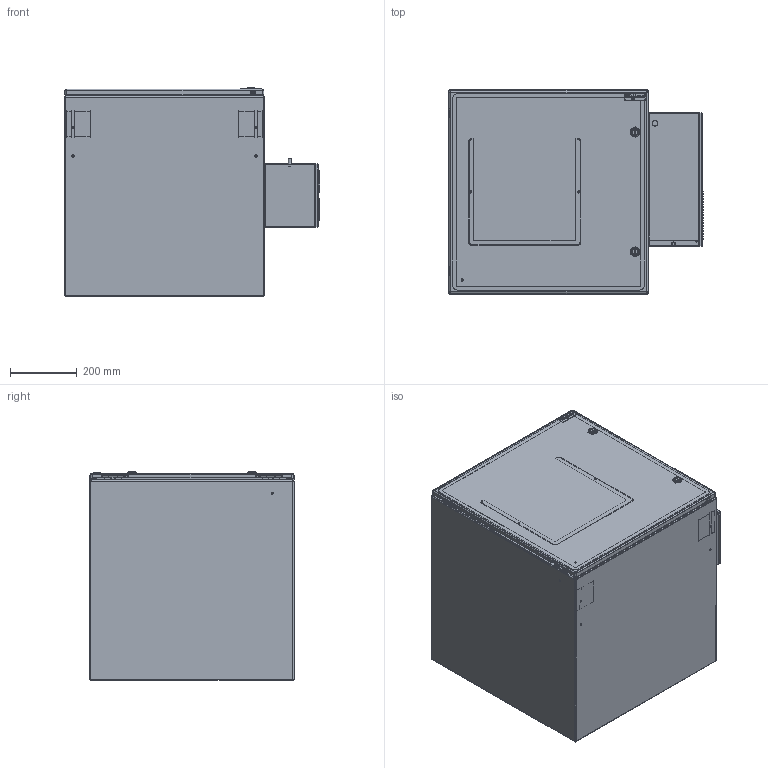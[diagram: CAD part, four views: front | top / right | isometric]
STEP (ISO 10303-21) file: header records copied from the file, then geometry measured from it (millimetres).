
FILE_DESCRIPTION (( 'STEP AP203' ), '1' );
FILE_NAME ('ptrs242424xa.STEP', '2011-12-06T15:19:55', ( 'Hoffman User' ), ( 'Hoffman Enclosures' ), 'SwSTEP 2.0', 'SolidWorks 2010', '' );
FILE_SCHEMA (( 'CONFIG_CONTROL_DESIGN' ));
Products named in the file (41): ptrs242424xa; 89080366; 89074391; 89074356; 87846299_Config-Drawing; 89074527; 89074354; 89080365; 89080364; 87951490; 87951464; 89056623; 87543026; 89074131_WITH PRINT POCKET AND LATCHES; 89074125; 99401226_After Weld; 87751114_87751114; 89074134; 23418001; 64138001; 99411090; 99408537; 99407583; 87956867; 99405181; 87956872; 87956875; 99406294; 87956873; 87956874; 31122001_31122001; 87930615; 87928711; 87929769_Installed on Pin; 89060606_89060606; 89077145; 89072121_GUIDE HOLES REMOVED; 89077148; 87928600; 89080407
Assembly tree (60 placements, depth 5):
  ptrs242424xa
    89060606_89060606  x2
    87951490  x2
      87951464
      89056623
    87543026  x2
    87930615  x2
      87928711
      87929769_Installed on Pin
    87928600
    89074131_WITH PRINT POCKET AND LATCHES
      99401226_After Weld
      87751114_87751114  x2
      89074134
      64138001  x2
      31122001_31122001  x2
      23418001
      89074125
      99411090  x2
        99407583
          87956867
          99405181
          87956872
          87956875
        99408537
        99406294
          87956874
          87956873
    89080407
    89077145
      89072121_GUIDE HOLES REMOVED
    89077148
      89072121_GUIDE HOLES REMOVED
    89080366
      89074391
        87846299_Config-Drawing  x4
        89074356
      89080365
        99401226_After Weld  x4
        89080364
      89074527
        99401226_After Weld  x5
        89074354
Bounding box: 765.01 x 612.71 x 624.19 mm (x, y, z)
Volume: 4665337.6 mm3; surface area: 5786049.8 mm2
Topology: 55 solids, 83 shells, 5089 faces, 13659 edges, 8746 vertices
Faces by surface type: plane 2509, cylinder 1286, bspline 1008, cone 138, torus 136, sphere 12
Entity records: 185349 total; most frequent: CARTESIAN_POINT 78804, ORIENTED_EDGE 22032, DIRECTION 18136, EDGE_CURVE 11471, VERTEX_POINT 7422, LINE 7352, VECTOR 7352, AXIS2_PLACEMENT_3D 5392
